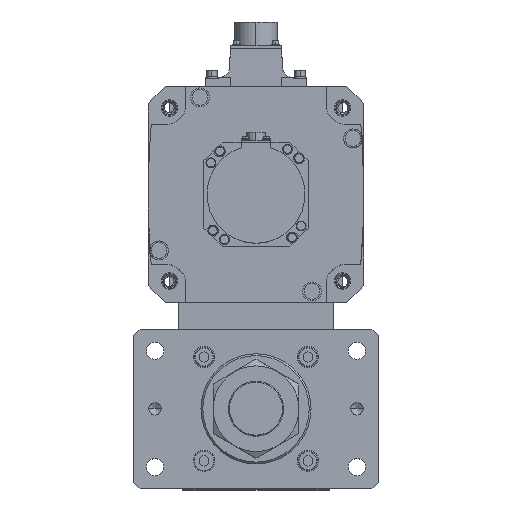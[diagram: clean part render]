
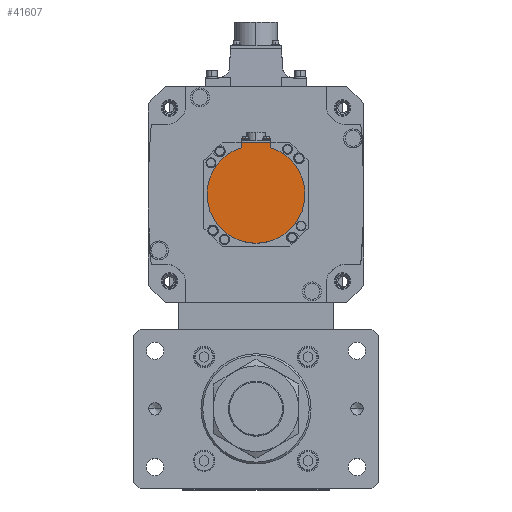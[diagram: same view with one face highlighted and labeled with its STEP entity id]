
A CAD part, top view. The second image highlights one B-rep face of the part: STEP entity #41607.
In plain terms, the highlighted planar face has unit normal (0, 0, 1) as drawn and (0, 0, -1) by its records, which use the part's own axes.
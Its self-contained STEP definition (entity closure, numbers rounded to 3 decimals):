
#108 = DIRECTION ( 'NONE',  ( 0., 0., 1. ) ) ;
#185 = DIRECTION ( 'NONE',  ( 0., 0., 1. ) ) ;
#1579 = CIRCLE ( 'NONE', #32663, 40. ) ;
#1724 = EDGE_CURVE ( 'NONE', #21138, #36178, #24337, .T. ) ;
#1820 = CARTESIAN_POINT ( 'NONE',  ( 40., 0., -138.5 ) ) ;
#2161 = CARTESIAN_POINT ( 'NONE',  ( 12., -38.158, -138.5 ) ) ;
#2718 = CARTESIAN_POINT ( 'NONE',  ( -12., -40.329, -138.5 ) ) ;
#2819 = EDGE_LOOP ( 'NONE', ( #9988, #19871, #12671, #4396, #3253, #10202 ) ) ;
#3253 = ORIENTED_EDGE ( 'NONE', *, *, #35806, .F. ) ;
#4396 = ORIENTED_EDGE ( 'NONE', *, *, #33858, .F. ) ;
#6345 = CARTESIAN_POINT ( 'NONE',  ( 0., -42.5, -138.5 ) ) ;
#6360 = AXIS2_PLACEMENT_3D ( 'NONE', #29864, #30047, #21777 ) ;
#6461 = FACE_OUTER_BOUND ( 'NONE', #2819, .T. ) ;
#7033 = VERTEX_POINT ( 'NONE', #1820 ) ;
#7306 = CIRCLE ( 'NONE', #34365, 40. ) ;
#7669 = DIRECTION ( 'NONE',  ( 0., 0., 1. ) ) ;
#7840 = CARTESIAN_POINT ( 'NONE',  ( 0., 0., -138.5 ) ) ;
#9653 = AXIS2_PLACEMENT_3D ( 'NONE', #32078, #108, #35938 ) ;
#9988 = ORIENTED_EDGE ( 'NONE', *, *, #34564, .T. ) ;
#10202 = ORIENTED_EDGE ( 'NONE', *, *, #1724, .T. ) ;
#11883 = DIRECTION ( 'NONE',  ( 1., 0., 0. ) ) ;
#11963 = CARTESIAN_POINT ( 'NONE',  ( -12., -42.5, -138.5 ) ) ;
#12671 = ORIENTED_EDGE ( 'NONE', *, *, #45095, .F. ) ;
#15931 = CARTESIAN_POINT ( 'NONE',  ( -40., 0., -138.5 ) ) ;
#16407 = VECTOR ( 'NONE', #36654, 1000. ) ;
#19871 = ORIENTED_EDGE ( 'NONE', *, *, #45790, .F. ) ;
#21138 = VERTEX_POINT ( 'NONE', #25198 ) ;
#21187 = VECTOR ( 'NONE', #46735, 1000. ) ;
#21777 = DIRECTION ( 'NONE',  ( 1., 0., 0. ) ) ;
#22314 = CIRCLE ( 'NONE', #6360, 40. ) ;
#24094 = DIRECTION ( 'NONE',  ( 1., 0., 0. ) ) ;
#24337 = LINE ( 'NONE', #6345, #21187 ) ;
#25198 = CARTESIAN_POINT ( 'NONE',  ( 12., -42.5, -138.5 ) ) ;
#27284 = LINE ( 'NONE', #2718, #46105 ) ;
#27798 = LINE ( 'NONE', #36478, #16407 ) ;
#29864 = CARTESIAN_POINT ( 'NONE',  ( 0., 0., -138.5 ) ) ;
#30047 = DIRECTION ( 'NONE',  ( 0., 0., 1. ) ) ;
#32078 = CARTESIAN_POINT ( 'NONE',  ( 0., -1.249, -138.5 ) ) ;
#32250 = PLANE ( 'NONE',  #9653 ) ;
#32663 = AXIS2_PLACEMENT_3D ( 'NONE', #7840, #7669, #11883 ) ;
#33858 = EDGE_CURVE ( 'NONE', #34921, #7033, #22314, .T. ) ;
#34365 = AXIS2_PLACEMENT_3D ( 'NONE', #35852, #185, #24094 ) ;
#34564 = EDGE_CURVE ( 'NONE', #36178, #48550, #27284, .T. ) ;
#34921 = VERTEX_POINT ( 'NONE', #2161 ) ;
#35806 = EDGE_CURVE ( 'NONE', #21138, #34921, #27798, .T. ) ;
#35852 = CARTESIAN_POINT ( 'NONE',  ( 0., 0., -138.5 ) ) ;
#35938 = DIRECTION ( 'NONE',  ( 1., 0., 0. ) ) ;
#36178 = VERTEX_POINT ( 'NONE', #11963 ) ;
#36478 = CARTESIAN_POINT ( 'NONE',  ( 12., -1.249, -138.5 ) ) ;
#36654 = DIRECTION ( 'NONE',  ( 0., 1., 0. ) ) ;
#36812 = VERTEX_POINT ( 'NONE', #15931 ) ;
#41607 = ADVANCED_FACE ( 'NONE', ( #6461 ), #32250, .F. ) ;
#42426 = DIRECTION ( 'NONE',  ( 0., 1., 0. ) ) ;
#45095 = EDGE_CURVE ( 'NONE', #7033, #36812, #7306, .T. ) ;
#45790 = EDGE_CURVE ( 'NONE', #36812, #48550, #1579, .T. ) ;
#46105 = VECTOR ( 'NONE', #42426, 1000. ) ;
#46735 = DIRECTION ( 'NONE',  ( -1., 0., 0. ) ) ;
#48550 = VERTEX_POINT ( 'NONE', #49938 ) ;
#49938 = CARTESIAN_POINT ( 'NONE',  ( -12., -38.158, -138.5 ) ) ;
